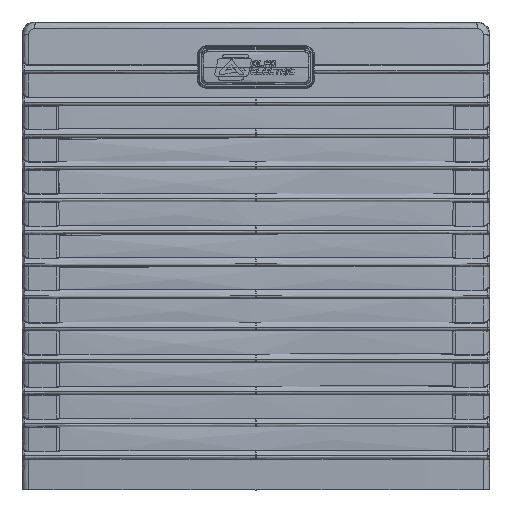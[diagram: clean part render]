
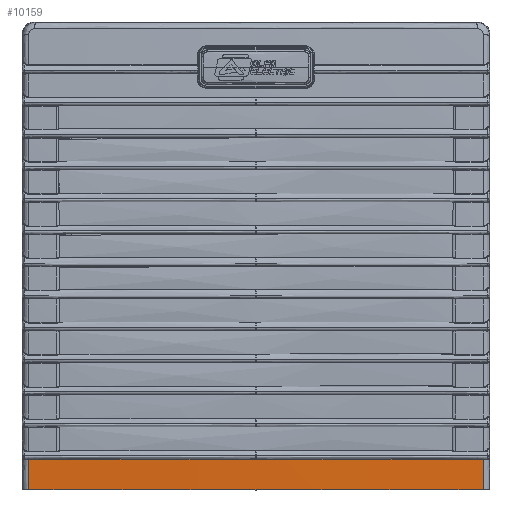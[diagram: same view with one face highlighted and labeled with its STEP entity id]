
A CAD part, front view. The second image highlights one B-rep face of the part: STEP entity #10159.
In plain terms, the highlighted free-form (B-spline) face has degree [2, 2] with [3, 5] control points.
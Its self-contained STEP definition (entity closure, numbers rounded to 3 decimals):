
#3125=(
BOUNDED_SURFACE()
B_SPLINE_SURFACE(2,2,((#93245,#93246,#93247,#93248,#93249),(#93250,#93251,
#93252,#93253,#93254),(#93255,#93256,#93257,#93258,#93259)),
 .UNSPECIFIED.,.F.,.F.,.F.)
B_SPLINE_SURFACE_WITH_KNOTS((3,3),(3,2,3),(4597.325,4640.99),
(3430.537,4712.389,5994.241),.UNSPECIFIED.)
GEOMETRIC_REPRESENTATION_ITEM()
RATIONAL_B_SPLINE_SURFACE(((0.831,0.818,0.973,
0.818,0.831),(0.836,0.822,
0.978,0.822,0.836),(0.84,
0.826,0.983,0.826,0.84)))
REPRESENTATION_ITEM('')
SURFACE()
);
#10159=ADVANCED_FACE('',(#12166),#3125,.T.);
#12166=FACE_OUTER_BOUND('',#14176,.T.);
#14176=EDGE_LOOP('',(#18881,#18882,#18883,#18884,#18885,#18886));
#18881=ORIENTED_EDGE('',*,*,#28392,.T.);
#18882=ORIENTED_EDGE('',*,*,#28393,.T.);
#18883=ORIENTED_EDGE('',*,*,#28394,.T.);
#18884=ORIENTED_EDGE('',*,*,#28395,.T.);
#18885=ORIENTED_EDGE('',*,*,#28396,.T.);
#18886=ORIENTED_EDGE('',*,*,#28397,.T.);
#28392=EDGE_CURVE('',#45697,#45698,#37004,.T.);
#28393=EDGE_CURVE('',#45698,#45699,#37005,.T.);
#28394=EDGE_CURVE('',#45699,#45700,#37006,.T.);
#28395=EDGE_CURVE('',#45700,#45701,#37007,.T.);
#28396=EDGE_CURVE('',#45701,#45702,#37008,.T.);
#28397=EDGE_CURVE('',#45702,#45697,#37009,.T.);
#37004=B_SPLINE_CURVE_WITH_KNOTS('',3,(#93266,#93267,#93268,#93269),
 .UNSPECIFIED.,.F.,.F.,(4,4),(0.,72.894),.UNSPECIFIED.);
#37005=B_SPLINE_CURVE_WITH_KNOTS('',3,(#93270,#93271,#93272,#93273),
 .UNSPECIFIED.,.F.,.F.,(4,4),(0.,72.894),.UNSPECIFIED.);
#37006=B_SPLINE_CURVE_WITH_KNOTS('',3,(#93274,#93275,#93276,#93277),
 .UNSPECIFIED.,.F.,.F.,(4,4),(0.,9.792),.UNSPECIFIED.);
#37007=B_SPLINE_CURVE_WITH_KNOTS('',3,(#93278,#93279,#93280,#93281),
 .UNSPECIFIED.,.F.,.F.,(4,4),(0.,72.91),.UNSPECIFIED.);
#37008=B_SPLINE_CURVE_WITH_KNOTS('',3,(#93282,#93283,#93284,#93285),
 .UNSPECIFIED.,.F.,.F.,(4,4),(0.,72.91),.UNSPECIFIED.);
#37009=B_SPLINE_CURVE_WITH_KNOTS('',3,(#93286,#93287,#93288,#93289),
 .UNSPECIFIED.,.F.,.F.,(4,4),(0.,9.792),.UNSPECIFIED.);
#45697=VERTEX_POINT('',#93260);
#45698=VERTEX_POINT('',#93261);
#45699=VERTEX_POINT('',#93262);
#45700=VERTEX_POINT('',#93263);
#45701=VERTEX_POINT('',#93264);
#45702=VERTEX_POINT('',#93265);
#93245=CARTESIAN_POINT('',(-54.086,-372.303,0.127));
#93246=CARTESIAN_POINT('',(-22.686,-372.303,-36.223));
#93247=CARTESIAN_POINT('',(25.349,-372.303,-36.223));
#93248=CARTESIAN_POINT('',(73.383,-372.303,-36.223));
#93249=CARTESIAN_POINT('',(104.784,-372.303,0.127));
#93250=CARTESIAN_POINT('',(-38.909,-373.71,13.238));
#93251=CARTESIAN_POINT('',(-13.508,-373.71,-16.167));
#93252=CARTESIAN_POINT('',(25.349,-373.71,-16.167));
#93253=CARTESIAN_POINT('',(64.206,-373.71,-16.167));
#93254=CARTESIAN_POINT('',(89.607,-373.71,13.238));
#93255=CARTESIAN_POINT('',(-23.709,-374.579,26.368));
#93256=CARTESIAN_POINT('',(-4.316,-374.579,3.919));
#93257=CARTESIAN_POINT('',(25.349,-374.579,3.919));
#93258=CARTESIAN_POINT('',(55.014,-374.579,3.919));
#93259=CARTESIAN_POINT('',(74.406,-374.579,26.368));
#93260=CARTESIAN_POINT('',(-47.509,-372.789,3.527));
#93261=CARTESIAN_POINT('',(25.349,-374.562,3.527));
#93262=CARTESIAN_POINT('',(98.207,-372.789,3.527));
#93263=CARTESIAN_POINT('',(98.223,-372.33,-6.254));
#93264=CARTESIAN_POINT('',(25.349,-374.104,-6.254));
#93265=CARTESIAN_POINT('',(-47.525,-372.33,-6.254));
#93266=CARTESIAN_POINT('',(-47.509,-372.789,3.527));
#93267=CARTESIAN_POINT('',(-23.23,-373.971,3.527));
#93268=CARTESIAN_POINT('',(1.041,-374.562,3.527));
#93269=CARTESIAN_POINT('',(25.349,-374.562,3.527));
#93270=CARTESIAN_POINT('',(25.349,-374.562,3.527));
#93271=CARTESIAN_POINT('',(49.656,-374.562,3.527));
#93272=CARTESIAN_POINT('',(73.928,-373.971,3.527));
#93273=CARTESIAN_POINT('',(98.207,-372.789,3.527));
#93274=CARTESIAN_POINT('',(98.207,-372.789,3.527));
#93275=CARTESIAN_POINT('',(98.211,-372.656,0.476));
#93276=CARTESIAN_POINT('',(98.217,-372.506,-2.766));
#93277=CARTESIAN_POINT('',(98.223,-372.33,-6.254));
#93278=CARTESIAN_POINT('',(98.223,-372.33,-6.254));
#93279=CARTESIAN_POINT('',(73.939,-373.513,-6.254));
#93280=CARTESIAN_POINT('',(49.662,-374.104,-6.254));
#93281=CARTESIAN_POINT('',(25.349,-374.104,-6.254));
#93282=CARTESIAN_POINT('',(25.349,-374.104,-6.254));
#93283=CARTESIAN_POINT('',(1.036,-374.104,-6.254));
#93284=CARTESIAN_POINT('',(-23.241,-373.513,-6.254));
#93285=CARTESIAN_POINT('',(-47.525,-372.33,-6.254));
#93286=CARTESIAN_POINT('',(-47.525,-372.33,-6.254));
#93287=CARTESIAN_POINT('',(-47.519,-372.506,-2.766));
#93288=CARTESIAN_POINT('',(-47.514,-372.656,0.476));
#93289=CARTESIAN_POINT('',(-47.509,-372.789,3.527));
